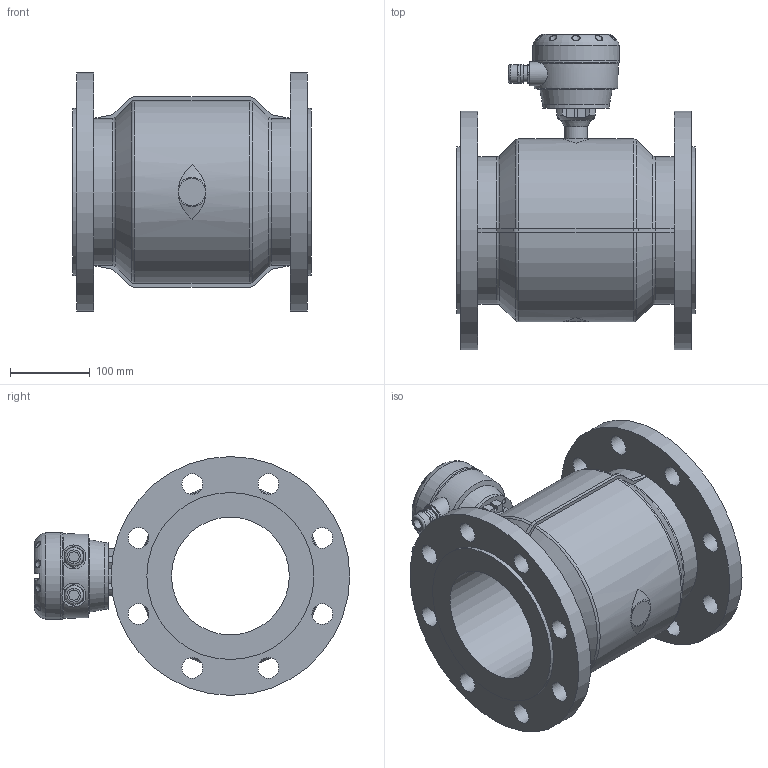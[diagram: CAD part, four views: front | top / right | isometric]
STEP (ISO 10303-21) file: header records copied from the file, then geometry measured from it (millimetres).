
FILE_DESCRIPTION (( 'STEP AP203' ), '1' );
FILE_NAME ('KROHNE_OPTIFLUX_2-4000W_DIN2635_DN150_PN40.STEP', '2011-04-26T11:26:23', ( '' ), ( '' ), 'SwSTEP 2.0', 'SolidWorks 2010', '' );
FILE_SCHEMA (( 'CONFIG_CONTROL_DESIGN' ));
Length unit declared in the file: millimetre
Products named in the file (1): KROHNE_OPTIFLUX_2-4000W_DIN2635_DN150_PN40
Bounding box: 300 x 396.49 x 300 mm (x, y, z)
Volume: 8018305.4 mm3; surface area: 679275.4 mm2
Topology: 14 solids, 14 shells, 385 faces, 964 edges, 628 vertices
Faces by surface type: plane 171, cylinder 104, bspline 53, torus 30, cone 14, sphere 13
Full cylindrical faces by diameter (mm): 4 x4, 6.6 x8, 13 x2, 20 x2, 23.5 x4, 26 x16, 29 x1, 30 x2, 84 x2, 109 x1, 148 x1, 209.9 x2, 300 x2
Entity records: 15708 total; most frequent: CARTESIAN_POINT 7087, ORIENTED_EDGE 1726, DIRECTION 1629, EDGE_CURVE 863, AXIS2_PLACEMENT_3D 603, VERTEX_POINT 601, EDGE_LOOP 540, FACE_OUTER_BOUND 449
